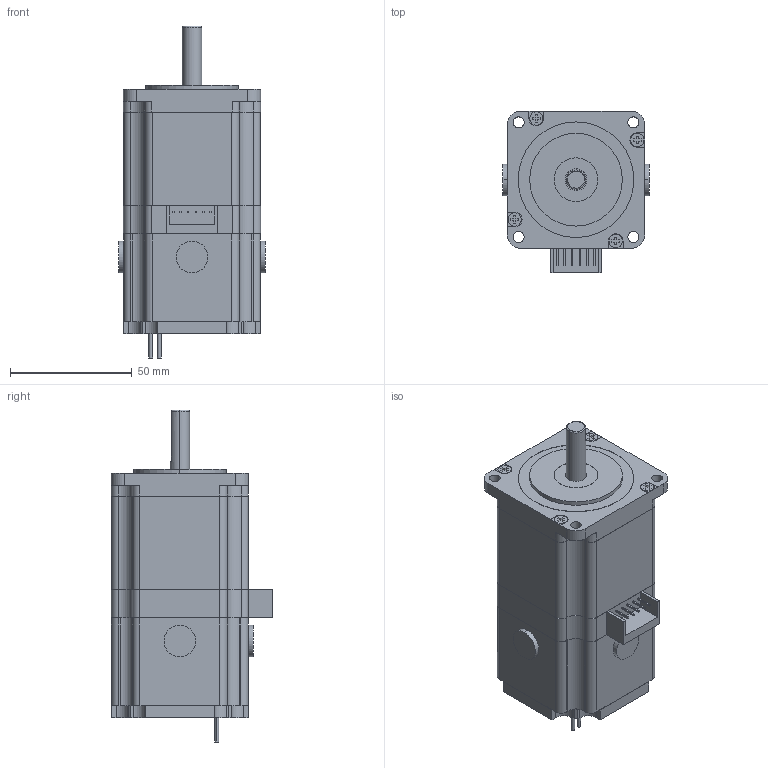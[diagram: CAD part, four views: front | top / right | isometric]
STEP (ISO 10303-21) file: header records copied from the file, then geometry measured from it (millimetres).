
FILE_DESCRIPTION (( 'STEP AP203' ), '1' );
FILE_NAME ('UB57D24-D30-655.STEP', '2020-06-30T07:14:48', ( '' ), ( '' ), 'SwSTEP 2.0', 'SolidWorks 2018', '' );
FILE_SCHEMA (( 'CONFIG_CONTROL_DESIGN' ));
Length unit declared in the file: millimetre
Products named in the file (1): UB57D24-D30-655
Bounding box: 60.2 x 66.4 x 136.5 mm (x, y, z)
Volume: 292889.3 mm3; surface area: 30293.9 mm2
Topology: 1 solids, 3 shells, 301 faces, 787 edges, 521 vertices
Faces by surface type: plane 189, cylinder 109, bspline 3
Entity records: 9397 total; most frequent: CARTESIAN_POINT 1688, DIRECTION 1602, ORIENTED_EDGE 1574, EDGE_CURVE 787, VECTOR 560, LINE 560, AXIS2_PLACEMENT_3D 521, VERTEX_POINT 521
